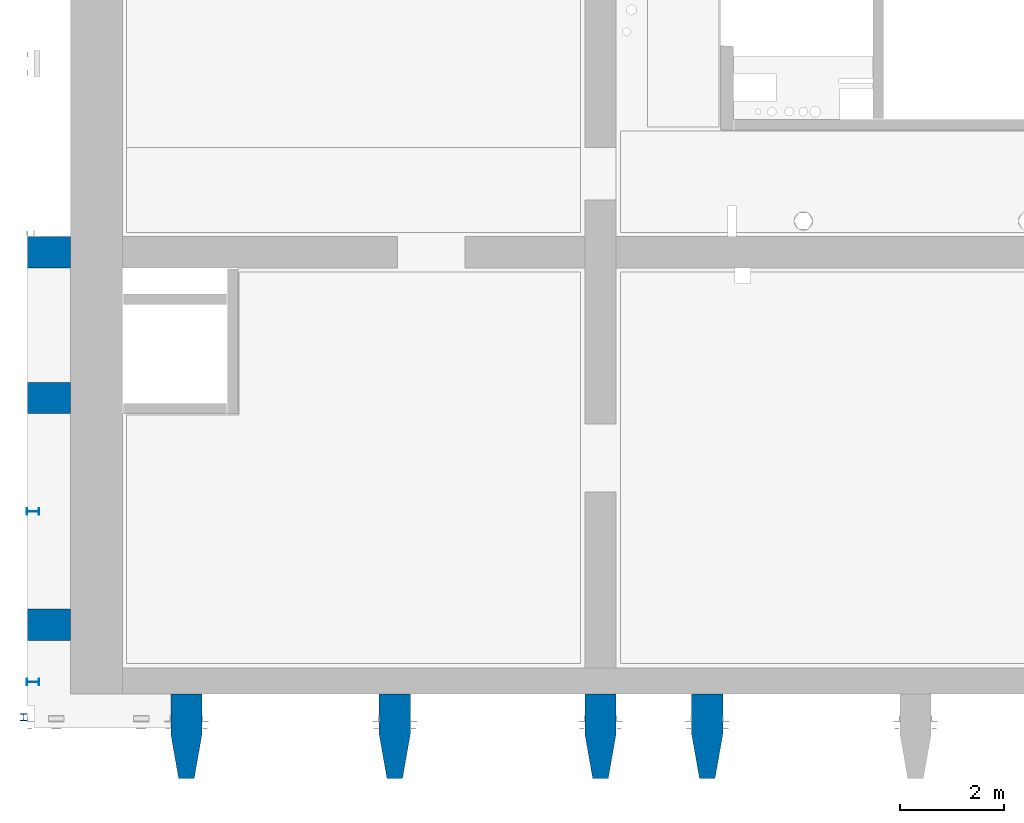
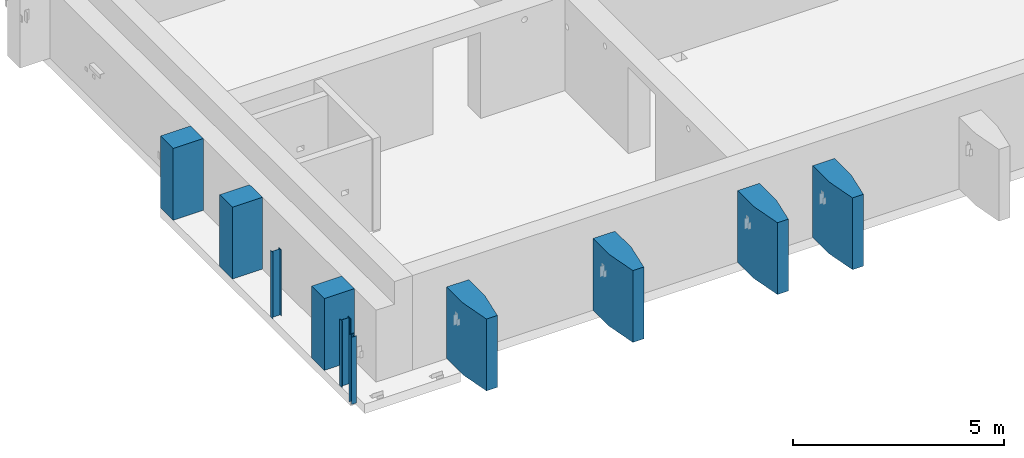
# One storey, part 1 of 22: 10 columns.
"""IFC2X3 building model written with IfcOpenShell, lengths in millimetres."""

import ifcopenshell
import ifcopenshell.guid

model = None  # the IFC model being written
_history = None  # IfcOwnerHistory: only IFC2X3 demands one
_inside = {}  # id of a spatial element -> (the spatial element, [elements in it])
_under = {}  # id of a project, library or spatial element -> (it, [spatial elements below it])
_declared = {}  # id of a project -> (the project, [libraries it declares])
_typed = {}  # id of a type object -> (the type object, [elements of that type])
_made_of = {}  # id of a material, layer set ... -> (it, [elements and type objects made of it])


def new_model(schema):
    """Start an empty IFC model of exactly this schema.

    Asked for "IFC4X3", IfcOpenShell would pick the latest addendum, in which some entities
    have other attributes; the version numbers below select the first issue.
    IFC2X3 requires an IfcOwnerHistory on every rooted entity: one is made here for all.
    """
    global model, _history
    if schema == "IFC4X3":
        model = ifcopenshell.file(schema_version=(4, 3, 0, 0))
    else:
        model = ifcopenshell.file(schema=schema)
    _inside.clear()
    _under.clear()
    _declared.clear()
    _typed.clear()
    _made_of.clear()
    _history = None
    if model.schema == "IFC2X3":
        org = make("IfcOrganization", Name="unknown")
        user = make(
            "IfcPersonAndOrganization",
            ThePerson=make("IfcPerson", FamilyName="unknown"),
            TheOrganization=org,
        )
        app = make(
            "IfcApplication",
            ApplicationDeveloper=org,
            Version="unknown",
            ApplicationFullName="unknown",
            ApplicationIdentifier="unknown",
        )
        _history = make(
            "IfcOwnerHistory",
            OwningUser=user,
            OwningApplication=app,
            ChangeAction="ADDED",
            CreationDate=0,
        )
    return model


def make(cls, **values):
    """One entity of the class cls with the attributes given. An attribute that is None is left unset."""
    return model.create_entity(
        cls, **{name: value for name, value in values.items() if value is not None}
    )


def entity(cls, *values):
    """Any entity or typed value of the class cls, its attributes in the order of the schema. None: left unset."""
    e = model.create_entity(cls)
    for i, value in enumerate(values):
        if value is not None:
            e[i] = value
    return e


def rooted(cls, **values):
    """An entity with a GlobalId (a new one), such as an element, a storey or a relation."""
    return make(cls, GlobalId=ifcopenshell.guid.new(), OwnerHistory=_history, **values)


def si_unit(unit_type, name, prefix=None):
    """IfcSIUnit, for example si_unit("LENGTHUNIT", "METRE", prefix="MILLI")."""
    return make("IfcSIUnit", UnitType=unit_type, Prefix=prefix, Name=name)


def converted_unit(unit_type, name, factor, base, dimensions=None, offset=None):
    """IfcConversionBasedUnit, such as the inch: factor (a typed value) times the base unit."""
    return make(
        "IfcConversionBasedUnit"
        if offset is None
        else "IfcConversionBasedUnitWithOffset",
        ConversionOffset=offset,
        Dimensions=None
        if dimensions is None
        else entity("IfcDimensionalExponents", *dimensions),
        UnitType=unit_type,
        Name=name,
        ConversionFactor=make(
            "IfcMeasureWithUnit", ValueComponent=factor, UnitComponent=base
        ),
    )


def derived_unit(unit_type, elements):
    """IfcDerivedUnit: a product of units, each with its exponent."""
    return make(
        "IfcDerivedUnit",
        Elements=[
            make("IfcDerivedUnitElement", Unit=unit, Exponent=power)
            for unit, power in elements
        ],
        UnitType=unit_type,
    )


def assignment(units):
    """IfcUnitAssignment: the units of a project."""
    return None if units is None else make("IfcUnitAssignment", Units=units)


def point(xyz):
    """IfcCartesianPoint."""
    return None if xyz is None else make("IfcCartesianPoint", Coordinates=xyz)


def direction(xyz):
    """IfcDirection."""
    return None if xyz is None else make("IfcDirection", DirectionRatios=xyz)


def frame(location, z_axis=None, x_axis=None):
    """IfcAxis2Placement3D, a coordinate frame: its origin and axes. An axis left out is left unset."""
    return make(
        "IfcAxis2Placement3D",
        Location=point(location),
        Axis=direction(z_axis),
        RefDirection=direction(x_axis),
    )


def frame_2d(location, x_axis=None):
    """IfcAxis2Placement2D, a coordinate frame in the plane: its origin and x axis."""
    return make(
        "IfcAxis2Placement2D", Location=point(location), RefDirection=direction(x_axis)
    )


def origin():
    """The frame at (0, 0, 0) with its axes left unset."""
    return frame((0.0, 0.0, 0.0))


def place(relative_to, where):
    """IfcLocalPlacement: puts the frame where relative to a parent placement (None: the world)."""
    return make(
        "IfcLocalPlacement", PlacementRelTo=relative_to, RelativePlacement=where
    )


def context(
    kind, dimensions, precision=None, world=None, true_north=None, identifier=None
):
    """IfcGeometricRepresentationContext, for example the 3D "Model" context."""
    return make(
        "IfcGeometricRepresentationContext",
        ContextIdentifier=identifier,
        ContextType=kind,
        CoordinateSpaceDimension=dimensions,
        Precision=precision,
        WorldCoordinateSystem=world,
        TrueNorth=true_north,
    )


def subcontext(parent, identifier, kind, view, scale=None):
    """IfcGeometricRepresentationSubContext, for example "Body" below "Model"."""
    return make(
        "IfcGeometricRepresentationSubContext",
        ContextIdentifier=identifier,
        ContextType=kind,
        ParentContext=parent,
        TargetScale=scale,
        TargetView=view,
    )


def project(units=None, contexts=None):
    """IfcProject with its units and contexts."""
    return rooted(
        "IfcProject",
        Name="project",
        RepresentationContexts=contexts,
        UnitsInContext=assignment(units),
    )


def spatial(cls, under=None, at=None, **own):
    """A site, building, storey or space (cls), placed at a placement, below another one or the project."""
    s = rooted(cls, ObjectPlacement=at, **own)
    if under is not None:
        _under.setdefault(under.id(), (under, []))[1].append(s)
    return s


def polyline(points):
    """IfcPolyline through the points."""
    return make("IfcPolyline", Points=[point(p) for p in points])


def circle_curve(where, radius):
    """IfcCircle in the frame where."""
    return make("IfcCircle", Position=where, Radius=radius)


def parameter(value):
    """IfcParameterValue: where a trimmed curve begins or ends, as a parameter of its basis curve."""
    return model.create_entity("IfcParameterValue", value)


def trimmed(basis, trim1, trim2, sense, master):
    """IfcTrimmedCurve: the piece of a basis curve between two trims."""
    return make(
        "IfcTrimmedCurve",
        BasisCurve=basis,
        Trim1=trim1,
        Trim2=trim2,
        SenseAgreement=sense,
        MasterRepresentation=master,
    )


def segment(curve, same_sense, transition):
    """IfcCompositeCurveSegment."""
    return make(
        "IfcCompositeCurveSegment",
        Transition=transition,
        SameSense=same_sense,
        ParentCurve=curve,
    )


def composite_curve(segments, self_intersect=None):
    """IfcCompositeCurve: segments joined end to end."""
    return make("IfcCompositeCurve", Segments=segments, SelfIntersect=self_intersect)


def profile(cls, at=None, kind="AREA", **sizes):
    """A parametric profile (cls). Its sizes go by their IFC names, for example OverallWidth=200.0."""
    return make(cls, ProfileType=kind, Position=at, **sizes)


def rectangle(**sizes):
    """IfcRectangleProfileDef."""
    return profile("IfcRectangleProfileDef", **sizes)


def outline(outer, holes=None, kind="AREA"):
    """IfcArbitraryClosedProfileDef: a profile drawn as a closed curve; with holes, ...WithVoids."""
    if holes is None:
        return make("IfcArbitraryClosedProfileDef", ProfileType=kind, OuterCurve=outer)
    return make(
        "IfcArbitraryProfileDefWithVoids",
        ProfileType=kind,
        OuterCurve=outer,
        InnerCurves=holes,
    )


def extrude(swept, where, along, depth):
    """IfcExtrudedAreaSolid: the profile swept, set in the frame where, extruded along a direction by depth."""
    return make(
        "IfcExtrudedAreaSolid",
        SweptArea=swept,
        Position=where,
        ExtrudedDirection=direction(along),
        Depth=depth,
    )


def shape(context_of_items, identifier, shape_type, items):
    """IfcShapeRepresentation: the items that make up one representation, for example the "Body"."""
    return make(
        "IfcShapeRepresentation",
        ContextOfItems=context_of_items,
        RepresentationIdentifier=identifier,
        RepresentationType=shape_type,
        Items=items,
    )


def source(mapping_origin, context_of_items, identifier, shape_type, items):
    """IfcRepresentationMap: a shape defined once, which mapped items show again and again."""
    return make(
        "IfcRepresentationMap",
        MappingOrigin=mapping_origin,
        MappedRepresentation=shape(context_of_items, identifier, shape_type, items),
    )


def transform(
    local_origin,
    x_axis=None,
    y_axis=None,
    z_axis=None,
    scale=None,
    scale2=None,
    scale3=None,
    uniform=True,
):
    """IfcCartesianTransformationOperator3D, or its non-uniform kind. x_axis, y_axis, z_axis: its Axis1, 2, 3."""
    if uniform:
        return make(
            "IfcCartesianTransformationOperator3D",
            Axis1=direction(x_axis),
            Axis2=direction(y_axis),
            LocalOrigin=point(local_origin),
            Scale=scale,
            Axis3=direction(z_axis),
        )
    return make(
        "IfcCartesianTransformationOperator3DnonUniform",
        Axis1=direction(x_axis),
        Axis2=direction(y_axis),
        LocalOrigin=point(local_origin),
        Scale=scale,
        Axis3=direction(z_axis),
        Scale2=scale2,
        Scale3=scale3,
    )


def mapped(mapping_source, mapping_target):
    """IfcMappedItem: shows the shape of a source again, moved by a transform."""
    return make(
        "IfcMappedItem", MappingSource=mapping_source, MappingTarget=mapping_target
    )


def material(Name=None, Category=None):
    """IfcMaterial."""
    return make("IfcMaterial", Name=Name, Category=Category)


def made_of(thing, what):
    """Note that an element or type object is made of a material, layer set ...; save() writes the relation."""
    if what is not None:
        _made_of.setdefault(what.id(), (what, []))[1].append(thing)
    return thing


def type_object(cls, material=None, **own):
    """A type object (cls), such as IfcWallType, which elements share."""
    return made_of(rooted(cls, **own), material)


def type_shapes(of_type, sources):
    """Give a type object the sources (RepresentationMaps) that its elements show as mapped items."""
    of_type.RepresentationMaps = sources


def element(
    cls,
    number,
    at=None,
    inside=None,
    cuts=None,
    type_object=None,
    material=None,
    context=None,
    identifier="Body",
    shape_type=None,
    held_by="IfcProductDefinitionShape",
    body=None,
    shapes=None,
    **own,
):
    """One element of the class cls, such as IfcWall. Its Tag is "e" and its number.

    at: its placement. inside: the storey or other place that contains it. cuts: it is an
    opening in that element (IfcRelVoidsElement). A single representation is given by context,
    identifier, shape_type and body (its items); several are given by shapes. held_by: the class
    of the entity that holds the representations. save() writes the other relations.
    """
    e = rooted(cls, Tag="e%d" % number, ObjectPlacement=at, **own)
    if body is not None:
        shapes = [shape(context, identifier, shape_type, body)]
    if shapes is not None:
        e.Representation = make(held_by, Representations=shapes)
    if inside is not None:
        _inside.setdefault(inside.id(), (inside, []))[1].append(e)
    if cuts is not None:
        rooted(
            "IfcRelVoidsElement", RelatingBuildingElement=cuts, RelatedOpeningElement=e
        )
    if type_object is not None:
        _typed.setdefault(type_object.id(), (type_object, []))[1].append(e)
    return made_of(e, material)


def aggregate(whole, parts):
    """IfcRelAggregates: a whole, such as a stair, and the parts it consists of."""
    return rooted("IfcRelAggregates", RelatingObject=whole, RelatedObjects=parts)


def save(model, path):
    """Write the relations noted so far, then the file.

    IfcRelAggregates (storeys below a building ...), IfcRelContainedInSpatialStructure (elements
    in a storey), IfcRelDefinesByType, IfcRelAssociatesMaterial and IfcRelDeclares: one each for
    every whole, place, type object, material and project.
    """
    for whole, parts in _under.values():
        aggregate(whole, parts)
    for where, things in _inside.values():
        rooted(
            "IfcRelContainedInSpatialStructure",
            RelatedElements=things,
            RelatingStructure=where,
        )
    for kind, things in _typed.values():
        rooted("IfcRelDefinesByType", RelatedObjects=things, RelatingType=kind)
    for what, things in _made_of.values():
        rooted("IfcRelAssociatesMaterial", RelatedObjects=things, RelatingMaterial=what)
    for by, libraries in _declared.values():
        rooted("IfcRelDeclares", RelatingContext=by, RelatedDefinitions=libraries)
    model.write(path)


model = new_model("IFC2X3")

# Units and contexts
model_context = context("Model", 3, precision=0.01, world=origin(), true_north=direction((6.12303176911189e-17, 1.0)))
body_context = subcontext(model_context, "Body", "Model", "MODEL_VIEW")
ifc_project = project(units=[si_unit("LENGTHUNIT", "METRE", prefix="MILLI"), si_unit("AREAUNIT", "SQUARE_METRE"), si_unit("VOLUMEUNIT", "CUBIC_METRE"), converted_unit("PLANEANGLEUNIT", "DEGREE", entity("IfcRatioMeasure", 0.0174532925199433), si_unit("PLANEANGLEUNIT", "RADIAN"), dimensions=[0, 0, 0, 0, 0, 0, 0]), si_unit("MASSUNIT", "GRAM", prefix="KILO"), derived_unit("MASSDENSITYUNIT", [(si_unit("MASSUNIT", "GRAM", prefix="KILO"), 1), (si_unit("LENGTHUNIT", "METRE"), -3)]), si_unit("TIMEUNIT", "SECOND"), si_unit("FREQUENCYUNIT", "HERTZ"), si_unit("THERMODYNAMICTEMPERATUREUNIT", "DEGREE_CELSIUS"), derived_unit("THERMALTRANSMITTANCEUNIT", [(si_unit("MASSUNIT", "GRAM", prefix="KILO"), 1), (si_unit("THERMODYNAMICTEMPERATUREUNIT", "KELVIN"), -1), (si_unit("TIMEUNIT", "SECOND"), -3)]), derived_unit("VOLUMETRICFLOWRATEUNIT", [(si_unit("LENGTHUNIT", "METRE"), 3), (si_unit("TIMEUNIT", "SECOND"), -1)]), si_unit("ELECTRICCURRENTUNIT", "AMPERE"), si_unit("ELECTRICVOLTAGEUNIT", "VOLT"), si_unit("POWERUNIT", "WATT"), si_unit("FORCEUNIT", "NEWTON", prefix="KILO"), si_unit("ILLUMINANCEUNIT", "LUX"), si_unit("LUMINOUSFLUXUNIT", "LUMEN"), si_unit("LUMINOUSINTENSITYUNIT", "CANDELA"), derived_unit("USERDEFINED", [(si_unit("MASSUNIT", "GRAM", prefix="KILO"), -1), (si_unit("LENGTHUNIT", "METRE"), -2), (si_unit("TIMEUNIT", "SECOND"), 3), (si_unit("LUMINOUSFLUXUNIT", "LUMEN"), 1)]), derived_unit("LINEARVELOCITYUNIT", [(si_unit("LENGTHUNIT", "METRE"), 1), (si_unit("TIMEUNIT", "SECOND"), -1)]), si_unit("PRESSUREUNIT", "PASCAL"), derived_unit("USERDEFINED", [(si_unit("LENGTHUNIT", "METRE"), -2), (si_unit("MASSUNIT", "GRAM", prefix="KILO"), 1), (si_unit("TIMEUNIT", "SECOND"), -2)])], contexts=[model_context])

# Site, building, storey
site_placement = place(None, origin())
site = spatial("IfcSite", under=ifc_project, at=site_placement, Name="Default", CompositionType="ELEMENT")
building_placement = place(site_placement, origin())
building = spatial("IfcBuilding", under=site, at=building_placement, Name="niet gebruiken", CompositionType="ELEMENT")
storey_placement = place(building_placement, frame((0.0, 0.0, 15000.0)))
storey = spatial("IfcBuildingStorey", under=building, at=storey_placement, Name="04 vierde verdieping", CompositionType="ELEMENT", Elevation=15000.0)

# Columns
ifc_material_1 = material(Name="NLRS_f2_beton ihwg")
column_type_1 = type_object("IfcColumnType", Name="600/300x2120/1270", PredefinedType="COLUMN", material=ifc_material_1)
shared_shape_1 = source(origin(), body_context, "Body", "SweptSolid", [
    extrude(outline(polyline([(-796.666666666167, -300.0), (-26.6666666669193, -300.0), (823.333333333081, -150.0), (823.333333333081, 150.0), (-26.6666666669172, 300.0), (-796.666666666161, 300.0), (-796.666666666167, -300.0)])), frame((127750.0, 973.333333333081, 14910.0), z_axis=(0.0, 0.0, 1.0), x_axis=(0.0, -1.0, 0.0)), (0.0, 0.0, 1.0), 2075.00000000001),
])
type_shapes(column_type_1, [shared_shape_1])
column_1_placement = place(storey_placement, frame((0.0, 0.0, -15000.0)))
element("IfcColumn", 1, at=column_1_placement, inside=storey, type_object=column_type_1, material=ifc_material_1, Name="NLRS_28.11_SCO_TLB_beton kolom ihwg V vorm_gen:600/300x2120/1270", ObjectType="600/300x2120/1270", context=body_context, shape_type="MappedRepresentation", body=[
    mapped(shared_shape_1, transform((0.0, 0.0, 0.0), scale=1.0)),
])
column_type_2 = type_object("IfcColumnType", Name="600/300x2120/1270", PredefinedType="COLUMN", material=ifc_material_1)
shared_shape_2 = source(origin(), body_context, "Body", "SweptSolid", [
    extrude(outline(polyline([(-796.666666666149, -300.0), (-26.6666666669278, -300.0), (823.333333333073, -150.0), (823.333333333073, 150.0), (-26.6666666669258, 300.0), (-796.666666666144, 300.0), (-796.666666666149, -300.0)])), frame((131750.0, 973.33333333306, 14910.0), z_axis=(0.0, 0.0, 1.0), x_axis=(0.0, -1.0, 0.0)), (0.0, 0.0, 1.0), 2075.00000000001),
])
type_shapes(column_type_2, [shared_shape_2])
column_2_placement = place(storey_placement, frame((0.0, 0.0, -15000.0)))
element("IfcColumn", 2, at=column_2_placement, inside=storey, type_object=column_type_2, material=ifc_material_1, Name="NLRS_28.11_SCO_TLB_beton kolom ihwg V vorm_gen:600/300x2120/1270", ObjectType="600/300x2120/1270", context=body_context, shape_type="MappedRepresentation", body=[
    mapped(shared_shape_2, transform((0.0, 0.0, 0.0), scale=1.0)),
])
column_type_3 = type_object("IfcColumnType", Name="600/300x2120/1270", PredefinedType="COLUMN", material=ifc_material_1)
shared_shape_3 = source(origin(), body_context, "Body", "SweptSolid", [
    extrude(outline(polyline([(-796.666666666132, -300.0), (-26.6666666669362, -300.0), (823.333333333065, -150.0), (823.333333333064, 150.0), (-26.6666666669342, 300.0), (-796.666666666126, 300.0), (-796.666666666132, -300.0)])), frame((135700.0, 973.333333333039, 14910.0), z_axis=(0.0, 0.0, 1.0), x_axis=(0.0, -1.0, 0.0)), (0.0, 0.0, 1.0), 2075.00000000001),
])
type_shapes(column_type_3, [shared_shape_3])
column_3_placement = place(storey_placement, frame((0.0, 0.0, -15000.0)))
element("IfcColumn", 3, at=column_3_placement, inside=storey, type_object=column_type_3, material=ifc_material_1, Name="NLRS_28.11_SCO_TLB_beton kolom ihwg V vorm_gen:600/300x2120/1270", ObjectType="600/300x2120/1270", context=body_context, shape_type="MappedRepresentation", body=[
    mapped(shared_shape_3, transform((0.0, 0.0, 0.0), scale=1.0)),
])
column_type_4 = type_object("IfcColumnType", Name="600/300x2120/1270", PredefinedType="COLUMN", material=ifc_material_1)
shared_shape_4 = source(origin(), body_context, "Body", "SweptSolid", [
    extrude(outline(polyline([(-796.666666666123, -300.0), (-26.6666666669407, -300.0), (823.33333333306, -150.0), (823.33333333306, 150.0), (-26.6666666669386, 300.0), (-796.666666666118, 300.0), (-796.666666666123, -300.0)])), frame((137750.0, 973.333333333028, 14910.0), z_axis=(0.0, 0.0, 1.0), x_axis=(0.0, -1.0, 0.0)), (0.0, 0.0, 1.0), 2075.00000000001),
])
type_shapes(column_type_4, [shared_shape_4])
column_4_placement = place(storey_placement, frame((0.0, 0.0, -15000.0)))
element("IfcColumn", 4, at=column_4_placement, inside=storey, type_object=column_type_4, material=ifc_material_1, Name="NLRS_28.11_SCO_TLB_beton kolom ihwg V vorm_gen:600/300x2120/1270", ObjectType="600/300x2120/1270", context=body_context, shape_type="MappedRepresentation", body=[
    mapped(shared_shape_4, transform((0.0, 0.0, 0.0), scale=1.0)),
])
column_type_5 = type_object("IfcColumnType", Name="600x820", PredefinedType="COLUMN", material=ifc_material_1)
shared_shape_5 = source(origin(), body_context, "Body", "SweptSolid", [
    extrude(rectangle(XDim=600.0, YDim=820.000000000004, at=frame_2d((0.0, 1.73372427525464e-11), x_axis=(1.0, 0.0))), frame((125110.0, 3100.0, 14910.0), z_axis=(0.0, 0.0, 1.0), x_axis=(0.0, -1.0, 0.0)), (0.0, 0.0, 1.0), 2075.00000000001),
])
type_shapes(column_type_5, [shared_shape_5])
column_5_placement = place(storey_placement, frame((0.0, 0.0, -15000.0)))
element("IfcColumn", 5, at=column_5_placement, inside=storey, type_object=column_type_5, material=ifc_material_1, Name="NLRS_28.11_SCO_TLB_beton kolom ihwg_gen:600x820", ObjectType="600x820", context=body_context, shape_type="MappedRepresentation", body=[
    mapped(shared_shape_5, transform((0.0, 0.0, 0.0), scale=1.0)),
])
column_type_6 = type_object("IfcColumnType", Name="600x820", PredefinedType="COLUMN", material=ifc_material_1)
shared_shape_6 = source(origin(), body_context, "Body", "SweptSolid", [
    extrude(rectangle(XDim=600.0, YDim=820.000000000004, at=frame_2d((0.0, 1.73372427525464e-11), x_axis=(1.0, 0.0))), frame((125110.0, 7450.0, 14910.0), z_axis=(0.0, 0.0, 1.0), x_axis=(0.0, -1.0, 0.0)), (0.0, 0.0, 1.0), 2075.00000000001),
])
type_shapes(column_type_6, [shared_shape_6])
column_6_placement = place(storey_placement, frame((0.0, 0.0, -15000.0)))
element("IfcColumn", 6, at=column_6_placement, inside=storey, type_object=column_type_6, material=ifc_material_1, Name="NLRS_28.11_SCO_TLB_beton kolom ihwg_gen:600x820", ObjectType="600x820", context=body_context, shape_type="MappedRepresentation", body=[
    mapped(shared_shape_6, transform((0.0, 0.0, 0.0), scale=1.0)),
])
column_type_7 = type_object("IfcColumnType", Name="600x820", PredefinedType="COLUMN", material=ifc_material_1)
shared_shape_7 = source(origin(), body_context, "Body", "SweptSolid", [
    extrude(rectangle(XDim=600.0, YDim=820.000000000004, at=frame_2d((1.08002495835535e-12, 1.73372427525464e-11), x_axis=(1.0, 0.0))), frame((125110.0, 10250.0, 14910.0), z_axis=(0.0, 0.0, 1.0), x_axis=(0.0, -1.0, 0.0)), (0.0, 0.0, 1.0), 2075.00000000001),
])
type_shapes(column_type_7, [shared_shape_7])
column_7_placement = place(storey_placement, frame((0.0, 0.0, -15000.0)))
element("IfcColumn", 7, at=column_7_placement, inside=storey, type_object=column_type_7, material=ifc_material_1, Name="NLRS_28.11_SCO_TLB_beton kolom ihwg_gen:600x820", ObjectType="600x820", context=body_context, shape_type="MappedRepresentation", body=[
    mapped(shared_shape_7, transform((0.0, 0.0, 0.0), scale=1.0)),
])
ifc_material_2 = material(Name="NLRS_h2_staal")
column_type_8 = type_object("IfcColumnType", Name="kolom IPE 240", PredefinedType="COLUMN", material=ifc_material_2)
shared_shape_8 = source(origin(), body_context, "Body", "SweptSolid", [
    extrude(outline(composite_curve([segment(polyline([(110.199999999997, -60.0), (120.0, -60.0)]), True, "CONTINUOUS"), segment(polyline([(120.0, -60.0), (120.0, 60.0)]), True, "CONTINUOUS"), segment(polyline([(120.0, 60.0), (110.199999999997, 60.0)]), True, "CONTINUOUS"), segment(polyline([(110.199999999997, 60.0), (110.199999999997, 18.0999999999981)]), True, "CONTINUOUS"), segment(trimmed(circle_curve(frame_2d((95.1999999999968, 18.0999999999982), x_axis=(1.0, 0.0)), 15.0), [parameter(270.0)], [parameter(0.0)], True, "PARAMETER"), False, "CONTINUOUS"), segment(polyline([(95.1999999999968, 3.09999999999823), (-95.1999999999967, 3.09999999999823)]), True, "CONTINUOUS"), segment(trimmed(circle_curve(frame_2d((-95.1999999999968, 18.0999999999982), x_axis=(0.0, -1.0)), 15.0), [parameter(270.0)], [parameter(0.0)], True, "PARAMETER"), False, "CONTINUOUS"), segment(polyline([(-110.199999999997, 18.0999999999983), (-110.199999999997, 60.0)]), True, "CONTINUOUS"), segment(polyline([(-110.199999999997, 60.0), (-120.0, 60.0)]), True, "CONTINUOUS"), segment(polyline([(-120.0, 60.0), (-120.0, -60.0)]), True, "CONTINUOUS"), segment(polyline([(-120.0, -60.0), (-110.199999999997, -60.0)]), True, "CONTINUOUS"), segment(polyline([(-110.199999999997, -60.0), (-110.199999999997, -18.1000000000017)]), True, "CONTINUOUS"), segment(trimmed(circle_curve(frame_2d((-95.1999999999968, -18.1000000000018), x_axis=(-1.0, 0.0)), 15.0), [parameter(270.0)], [parameter(0.0)], True, "PARAMETER"), False, "CONTINUOUS"), segment(polyline([(-95.1999999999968, -3.10000000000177), (95.1999999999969, -3.10000000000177)]), True, "CONTINUOUS"), segment(trimmed(circle_curve(frame_2d((95.1999999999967, -18.1000000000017), x_axis=(0.0, 1.0)), 15.0), [parameter(270.0)], [parameter(0.0)], True, "PARAMETER"), False, "CONTINUOUS"), segment(polyline([(110.199999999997, -18.1000000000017), (110.199999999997, -60.0)]), True, "CONTINUOUS")], self_intersect=False)), frame((0.0, 0.0, 14940.0), z_axis=(0.0, 0.0, 1.0), x_axis=(0.0, -1.0, 0.0)), (0.0, 0.0, 1.0), 1912.00000000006),
])
type_shapes(column_type_8, [shared_shape_8])
for number, where, z_axis, x_axis, name in (
    (8, (124807.0, 5275.0, -15000.0), (0.0, 0.0, 1.0), (0.0, 1.0, 0.0), "NLRS_28.11_SCO_TLB_stalen kolom IPE_gen:kolom IPE 240"),
    (9, (124807.0, 2000.0, -15000.0), (0.0, 0.0, 1.0), (0.0, 1.0, 0.0), "NLRS_28.11_SCO_TLB_stalen kolom IPE_gen:kolom IPE 240"),
):
    element("IfcColumn", number, at=place(storey_placement, frame(where, z_axis=z_axis, x_axis=x_axis)), inside=storey, type_object=column_type_8, material=ifc_material_2, Name=name, ObjectType="kolom IPE 240", context=body_context, shape_type="MappedRepresentation", body=[
        mapped(shared_shape_8, transform((0.0, 0.0, 0.0), scale=1.0)),
    ])
column_type_9 = type_object("IfcColumnType", Name="kolom HEA 140", PredefinedType="COLUMN", material=ifc_material_2)
shared_shape_9 = source(origin(), body_context, "Body", "SweptSolid", [
    extrude(outline(composite_curve([segment(polyline([(58.0, -70.0), (66.4999999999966, -70.0)]), True, "CONTINUOUS"), segment(polyline([(66.4999999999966, -70.0), (66.4999999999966, 70.0)]), True, "CONTINUOUS"), segment(polyline([(66.4999999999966, 70.0), (58.0, 70.0)]), True, "CONTINUOUS"), segment(polyline([(58.0, 70.0), (58.0, 14.7499999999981)]), True, "CONTINUOUS"), segment(trimmed(circle_curve(frame_2d((46.0, 14.7499999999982), x_axis=(1.0, 0.0)), 12.0), [parameter(270.0)], [parameter(0.0)], True, "PARAMETER"), False, "CONTINUOUS"), segment(polyline([(46.0, 2.74999999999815), (-46.0, 2.74999999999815)]), True, "CONTINUOUS"), segment(trimmed(circle_curve(frame_2d((-46.0, 14.7499999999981), x_axis=(0.0, -1.0)), 12.0), [parameter(270.0)], [parameter(0.0)], True, "PARAMETER"), False, "CONTINUOUS"), segment(polyline([(-58.0, 14.7499999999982), (-58.0, 70.0)]), True, "CONTINUOUS"), segment(polyline([(-58.0, 70.0), (-66.4999999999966, 70.0)]), True, "CONTINUOUS"), segment(polyline([(-66.4999999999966, 70.0), (-66.4999999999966, -70.0)]), True, "CONTINUOUS"), segment(polyline([(-66.4999999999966, -70.0), (-58.0, -70.0)]), True, "CONTINUOUS"), segment(polyline([(-58.0, -70.0), (-58.0, -14.7500000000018)]), True, "CONTINUOUS"), segment(trimmed(circle_curve(frame_2d((-46.0, -14.7500000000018), x_axis=(-1.0, 0.0)), 12.0), [parameter(270.0)], [parameter(0.0)], True, "PARAMETER"), False, "CONTINUOUS"), segment(polyline([(-46.0, -2.75000000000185), (46.0, -2.75000000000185)]), True, "CONTINUOUS"), segment(trimmed(circle_curve(frame_2d((46.0, -14.7500000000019), x_axis=(0.0, 1.0)), 12.0), [parameter(270.0)], [parameter(0.0)], True, "PARAMETER"), False, "CONTINUOUS"), segment(polyline([(58.0, -14.7500000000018), (58.0, -70.0)]), True, "CONTINUOUS")], self_intersect=False)), frame((0.0, 0.0, 14910.0), z_axis=(0.0, 0.0, 1.0), x_axis=(0.0, -1.0, 0.0)), (0.0, 0.0, 1.0), 1942.00000000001),
])
type_shapes(column_type_9, [shared_shape_9])
column_8_placement = place(storey_placement, frame((124625.0, 1324.0, -15000.0)))
element("IfcColumn", 10, at=column_8_placement, inside=storey, type_object=column_type_9, material=ifc_material_2, Name="NLRS_28.11_SCO_TLB_stalen kolom HEA_gen:kolom HEA 140", ObjectType="kolom HEA 140", context=body_context, shape_type="MappedRepresentation", body=[
    mapped(shared_shape_9, transform((0.0, 0.0, 0.0), scale=1.0)),
])

save(model, "model.ifc")
